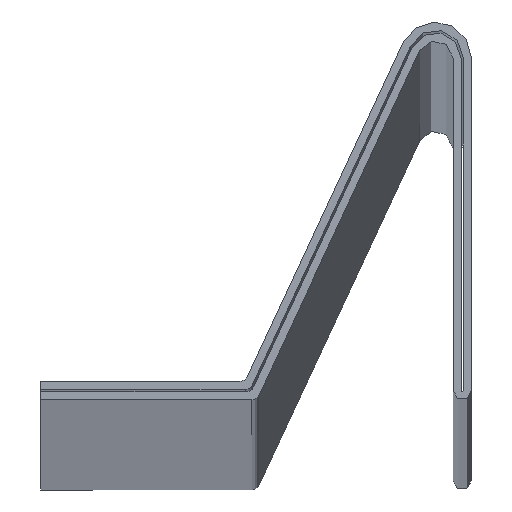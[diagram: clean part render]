
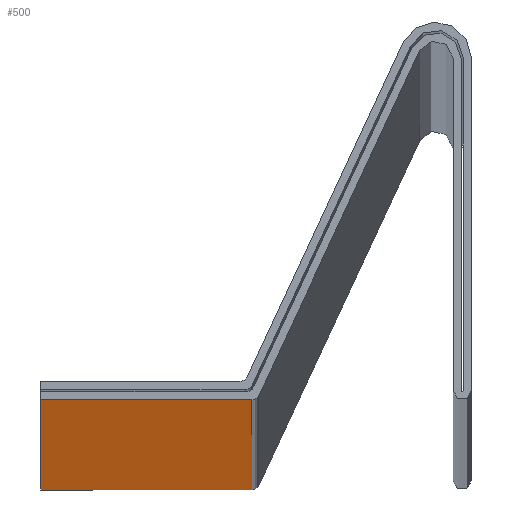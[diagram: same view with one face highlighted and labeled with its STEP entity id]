
A CAD part, top view. The second image highlights one B-rep face of the part: STEP entity #500.
In plain terms, the highlighted planar face has unit normal (0, -1, 0).
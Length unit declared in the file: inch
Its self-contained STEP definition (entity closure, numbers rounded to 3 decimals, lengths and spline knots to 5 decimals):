
#25=PLANE('',#566);
#50=FACE_OUTER_BOUND('',#76,.T.);
#76=EDGE_LOOP('',(#403,#404,#405,#406));
#122=LINE('',#838,#174);
#123=LINE('',#841,#175);
#124=LINE('',#843,#176);
#125=LINE('',#844,#177);
#174=VECTOR('',#690,0.3937);
#175=VECTOR('',#693,0.3937);
#176=VECTOR('',#694,0.3937);
#177=VECTOR('',#695,0.3937);
#245=VERTEX_POINT('',#834);
#246=VERTEX_POINT('',#836);
#247=VERTEX_POINT('',#840);
#248=VERTEX_POINT('',#842);
#312=EDGE_CURVE('',#245,#246,#122,.T.);
#313=EDGE_CURVE('',#247,#245,#123,.T.);
#314=EDGE_CURVE('',#248,#246,#124,.T.);
#315=EDGE_CURVE('',#247,#248,#125,.T.);
#403=ORIENTED_EDGE('',*,*,#313,.T.);
#404=ORIENTED_EDGE('',*,*,#312,.T.);
#405=ORIENTED_EDGE('',*,*,#314,.F.);
#406=ORIENTED_EDGE('',*,*,#315,.F.);
#500=ADVANCED_FACE('',(#50),#25,.T.);
#566=AXIS2_PLACEMENT_3D('',#839,#691,#692);
#690=DIRECTION('',(0.,0.,1.));
#691=DIRECTION('center_axis',(0.,-1.,0.));
#692=DIRECTION('ref_axis',(1.,0.,0.));
#693=DIRECTION('',(1.,0.,0.));
#694=DIRECTION('',(1.,0.,0.));
#695=DIRECTION('',(0.,0.,1.));
#834=CARTESIAN_POINT('',(0.4899,-0.0238,0.));
#836=CARTESIAN_POINT('',(0.4899,-0.0238,120.));
#838=CARTESIAN_POINT('',(0.4899,-0.0238,0.));
#839=CARTESIAN_POINT('Origin',(0.,-0.0238,0.));
#840=CARTESIAN_POINT('',(0.,-0.0238,0.));
#841=CARTESIAN_POINT('',(0.,-0.0238,0.));
#842=CARTESIAN_POINT('',(0.,-0.0238,120.));
#843=CARTESIAN_POINT('',(0.,-0.0238,120.));
#844=CARTESIAN_POINT('',(0.,-0.0238,0.));
